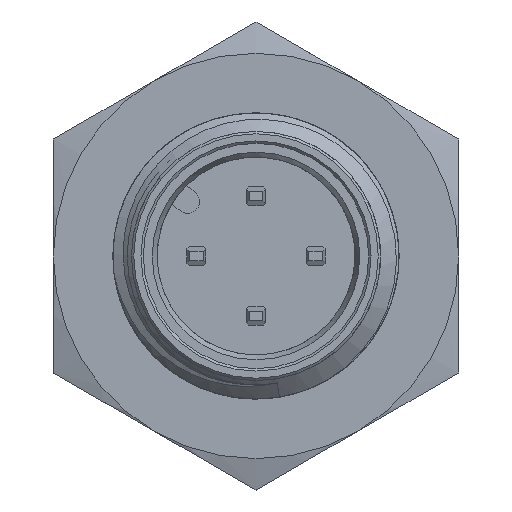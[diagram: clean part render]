
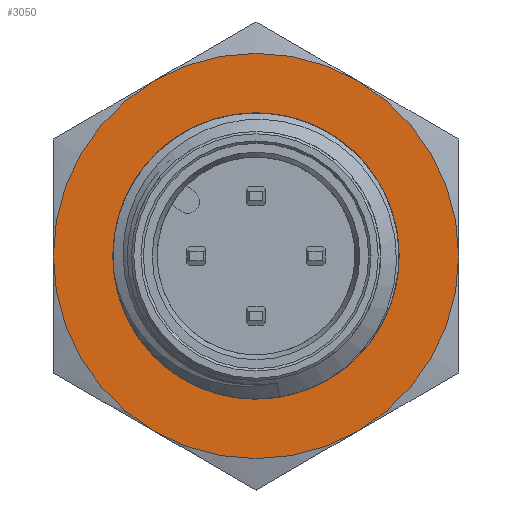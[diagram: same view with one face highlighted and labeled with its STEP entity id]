
A CAD part, left-side view. The second image highlights one B-rep face of the part: STEP entity #3050.
In plain terms, the highlighted planar face has unit normal (-1, 0, 0) as drawn and (0, 0, -1) by its records, which use the part's own axes.
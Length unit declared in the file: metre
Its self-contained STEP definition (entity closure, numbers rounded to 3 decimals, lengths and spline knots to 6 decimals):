
#3050 = ADVANCED_FACE( '', ( #3768, #3769 ), #3770, .F. );
#3768 = FACE_BOUND( '', #4087, .T. );
#3769 = FACE_OUTER_BOUND( '', #4088, .T. );
#3770 = PLANE( '', #4089 );
#4087 = EDGE_LOOP( '', ( #4566 ) );
#4088 = EDGE_LOOP( '', ( #4567, #4568, #4569, #4570, #4571, #4572 ) );
#4089 = AXIS2_PLACEMENT_3D( '', #4573, #4574, #4575 );
#4566 = ORIENTED_EDGE( '', *, *, #7025, .T. );
#4567 = ORIENTED_EDGE( '', *, *, #7015, .T. );
#4568 = ORIENTED_EDGE( '', *, *, #7026, .T. );
#4569 = ORIENTED_EDGE( '', *, *, #7027, .T. );
#4570 = ORIENTED_EDGE( '', *, *, #7028, .T. );
#4571 = ORIENTED_EDGE( '', *, *, #7029, .T. );
#4572 = ORIENTED_EDGE( '', *, *, #7030, .T. );
#4573 = CARTESIAN_POINT( '', ( -0.014722, 0.0085, 0. ) );
#4574 = DIRECTION( '', ( 0., 0., 1. ) );
#4575 = DIRECTION( '', ( 1., 0., 0. ) );
#7015 = EDGE_CURVE( '', #7286, #7288, #7290, .F. );
#7025 = EDGE_CURVE( '', #7306, #7306, #7307, .T. );
#7026 = EDGE_CURVE( '', #7288, #7308, #7309, .F. );
#7027 = EDGE_CURVE( '', #7308, #7310, #7311, .F. );
#7028 = EDGE_CURVE( '', #7310, #7312, #7313, .F. );
#7029 = EDGE_CURVE( '', #7312, #7272, #7314, .F. );
#7030 = EDGE_CURVE( '', #7272, #7286, #7315, .F. );
#7272 = VERTEX_POINT( '', #7347 );
#7286 = VERTEX_POINT( '', #7378 );
#7288 = VERTEX_POINT( '', #7383 );
#7290 = CIRCLE( '', #7388, 0.0085 );
#7306 = VERTEX_POINT( '', #7424 );
#7307 = CIRCLE( '', #7425, 0.005959 );
#7308 = VERTEX_POINT( '', #7426 );
#7309 = CIRCLE( '', #7427, 0.0085 );
#7310 = VERTEX_POINT( '', #7428 );
#7311 = CIRCLE( '', #7429, 0.0085 );
#7312 = VERTEX_POINT( '', #7430 );
#7313 = CIRCLE( '', #7431, 0.0085 );
#7314 = CIRCLE( '', #7432, 0.0085 );
#7315 = CIRCLE( '', #7433, 0.0085 );
#7347 = CARTESIAN_POINT( '', ( 0., 0.0085, 0. ) );
#7378 = CARTESIAN_POINT( '', ( 0.007361, 0.00425, 0. ) );
#7383 = CARTESIAN_POINT( '', ( 0.007361, -0.00425, 0. ) );
#7388 = AXIS2_PLACEMENT_3D( '', #7511, #7512, #7513 );
#7424 = CARTESIAN_POINT( '', ( 0.005959, 0., 0. ) );
#7425 = AXIS2_PLACEMENT_3D( '', #7519, #7520, #7521 );
#7426 = CARTESIAN_POINT( '', ( 0., -0.0085, 0. ) );
#7427 = AXIS2_PLACEMENT_3D( '', #7522, #7523, #7524 );
#7428 = CARTESIAN_POINT( '', ( -0.007361, -0.00425, 0. ) );
#7429 = AXIS2_PLACEMENT_3D( '', #7525, #7526, #7527 );
#7430 = CARTESIAN_POINT( '', ( -0.007361, 0.00425, 0. ) );
#7431 = AXIS2_PLACEMENT_3D( '', #7528, #7529, #7530 );
#7432 = AXIS2_PLACEMENT_3D( '', #7531, #7532, #7533 );
#7433 = AXIS2_PLACEMENT_3D( '', #7534, #7535, #7536 );
#7511 = CARTESIAN_POINT( '', ( 0., 0., 0. ) );
#7512 = DIRECTION( '', ( 0., 0., 1. ) );
#7513 = DIRECTION( '', ( 1., 0., 0. ) );
#7519 = CARTESIAN_POINT( '', ( 0., 0., 0. ) );
#7520 = DIRECTION( '', ( 0., 0., 1. ) );
#7521 = DIRECTION( '', ( 1., 0., 0. ) );
#7522 = CARTESIAN_POINT( '', ( 0., 0., 0. ) );
#7523 = DIRECTION( '', ( 0., 0., 1. ) );
#7524 = DIRECTION( '', ( 1., 0., 0. ) );
#7525 = CARTESIAN_POINT( '', ( 0., 0., 0. ) );
#7526 = DIRECTION( '', ( 0., 0., 1. ) );
#7527 = DIRECTION( '', ( 1., 0., 0. ) );
#7528 = CARTESIAN_POINT( '', ( 0., 0., 0. ) );
#7529 = DIRECTION( '', ( 0., 0., 1. ) );
#7530 = DIRECTION( '', ( 1., 0., 0. ) );
#7531 = CARTESIAN_POINT( '', ( 0., 0., 0. ) );
#7532 = DIRECTION( '', ( 0., 0., 1. ) );
#7533 = DIRECTION( '', ( 1., 0., 0. ) );
#7534 = CARTESIAN_POINT( '', ( 0., 0., 0. ) );
#7535 = DIRECTION( '', ( 0., 0., 1. ) );
#7536 = DIRECTION( '', ( 1., 0., 0. ) );
